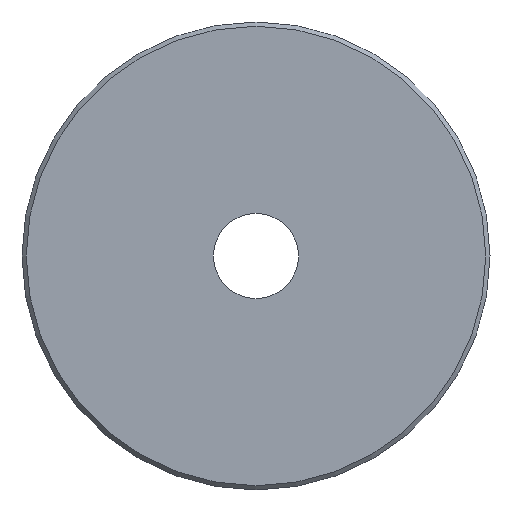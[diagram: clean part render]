
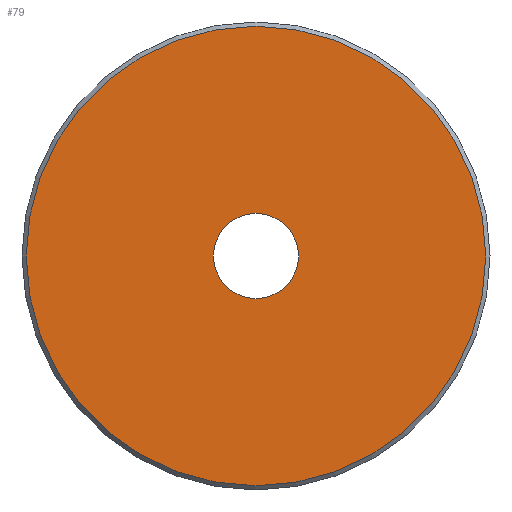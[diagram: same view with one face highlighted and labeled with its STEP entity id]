
A CAD part, front view. The second image highlights one B-rep face of the part: STEP entity #79.
In plain terms, the highlighted planar face has unit normal (0, -1, 0).
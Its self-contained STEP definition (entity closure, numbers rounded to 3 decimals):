
#16=PLANE('',#92);
#23=FACE_BOUND('',#40,.T.);
#29=FACE_OUTER_BOUND('',#39,.T.);
#39=EDGE_LOOP('',(#69));
#40=EDGE_LOOP('',(#70));
#47=CIRCLE('',#91,20.);
#48=CIRCLE('',#93,108.);
#53=VERTEX_POINT('',#134);
#54=VERTEX_POINT('',#137);
#59=EDGE_CURVE('',#53,#53,#47,.T.);
#60=EDGE_CURVE('',#54,#54,#48,.T.);
#69=ORIENTED_EDGE('',*,*,#60,.F.);
#70=ORIENTED_EDGE('',*,*,#59,.T.);
#79=ADVANCED_FACE('',(#29,#23),#16,.T.);
#91=AXIS2_PLACEMENT_3D('',#135,#113,#114);
#92=AXIS2_PLACEMENT_3D('',#136,#115,#116);
#93=AXIS2_PLACEMENT_3D('',#138,#117,#118);
#113=DIRECTION('center_axis',(0.,1.,0.));
#114=DIRECTION('ref_axis',(1.,0.,0.));
#115=DIRECTION('center_axis',(0.,-1.,0.));
#116=DIRECTION('ref_axis',(0.,0.,-1.));
#117=DIRECTION('center_axis',(0.,1.,0.));
#118=DIRECTION('ref_axis',(1.,0.,0.));
#134=CARTESIAN_POINT('',(92.832,3.947,0.));
#135=CARTESIAN_POINT('Origin',(112.832,3.947,0.));
#136=CARTESIAN_POINT('Origin',(4.832,3.947,0.));
#137=CARTESIAN_POINT('',(4.832,3.947,0.));
#138=CARTESIAN_POINT('Origin',(112.832,3.947,0.));
